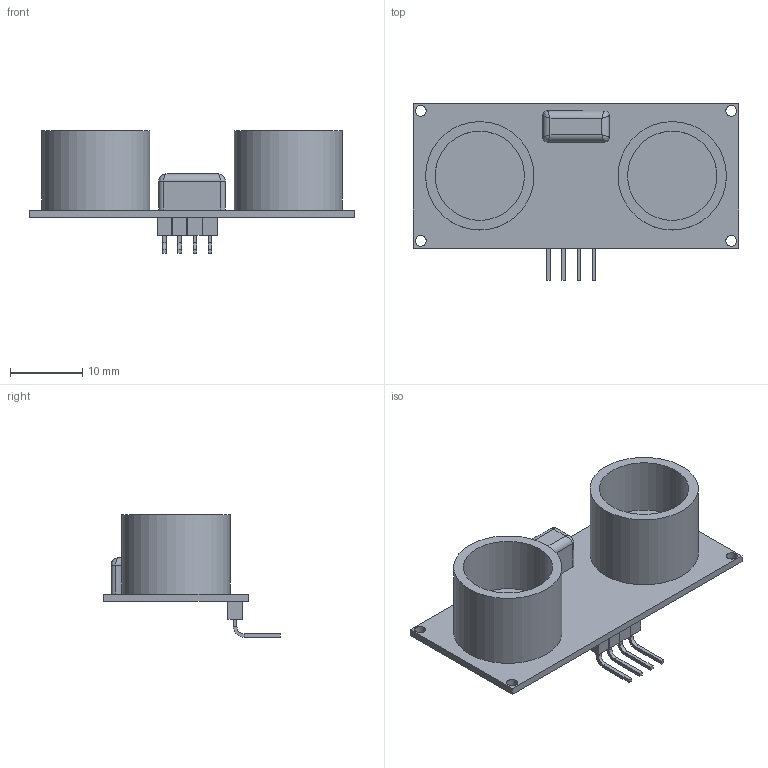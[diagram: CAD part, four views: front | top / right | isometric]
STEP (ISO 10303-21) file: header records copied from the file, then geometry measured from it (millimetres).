
FILE_DESCRIPTION(('FreeCAD Model'),'2;1');
FILE_NAME('Open CASCADE Shape Model','2023-04-10T16:29:18',('Author'),( ''),'Open CASCADE STEP processor 7.5','FreeCAD','Unknown');
FILE_SCHEMA(('AUTOMOTIVE_DESIGN { 1 0 10303 214 1 1 1 1 }'));
Length unit declared in the file: millimetre
Products named in the file (5): HC-SR04; Body027; PIN010; Array006; Body103
Assembly tree (7 placements, depth 4):
  HC-SR04
    Body027
    PIN010
      Array006
        Body103  x4
Bounding box: 45 x 24.45 x 17 mm (x, y, z)
Volume: 3099.4 mm3; surface area: 3886.4 mm2
Topology: 5 solids, 5 shells, 111 faces, 236 edges, 140 vertices
Faces by surface type: plane 83, cylinder 24, bspline 4
Full cylindrical faces by diameter (mm): 1.5 x4, 12.36 x2, 15 x2
Entity records: 3393 total; most frequent: CARTESIAN_POINT 972, DIRECTION 433, LINE 259, VECTOR 259, ORIENTED_EDGE 224, PCURVE 224, DEFINITIONAL_REPRESENTATION 224, EDGE_CURVE 112
